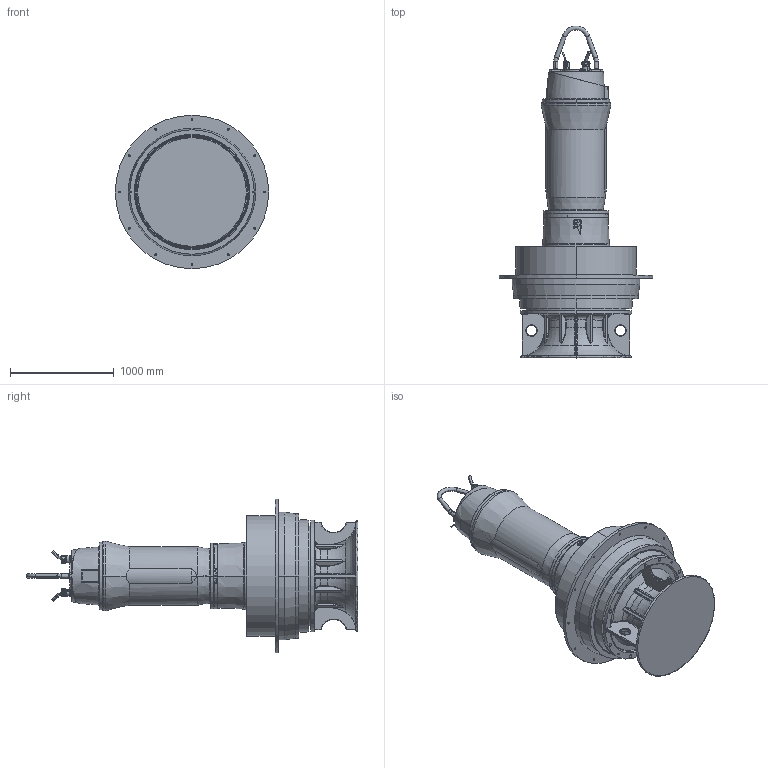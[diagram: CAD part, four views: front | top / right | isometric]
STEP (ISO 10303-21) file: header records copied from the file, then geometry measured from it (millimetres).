
FILE_DESCRIPTION (( 'STEP AP214' ), '1' );
FILE_NAME ('PE6_AFLX12107G3_FU_B_NG2.STEP', '2017-04-25T11:20:07', ( '' ), ( '' ), 'SwSTEP 2.0', 'SolidWorks 2017', '' );
FILE_SCHEMA (( 'AUTOMOTIVE_DESIGN' ));
Length unit declared in the file: millimetre
Products named in the file (1): PE6_AFLX12107G3_FU_B_NG2
Bounding box: 1480 x 3202.1 x 1480 mm (x, y, z)
Volume: 1314752125.3 mm3; surface area: 13909136.3 mm2
Topology: 4 solids, 22 shells, 2250 faces, 5439 edges, 3166 vertices
Faces by surface type: cylinder 610, plane 583, bspline 493, cone 257, torus 230, sphere 77
Entity records: 119398 total; most frequent: CARTESIAN_POINT 46124, ORIENTED_EDGE 10582, DIRECTION 9449, EDGE_CURVE 5291, AXIS2_PLACEMENT_3D 3762, VERTEX_POINT 3165, EDGE_LOOP 2442, UNCERTAINTY_MEASURE_WITH_UNIT 2256
